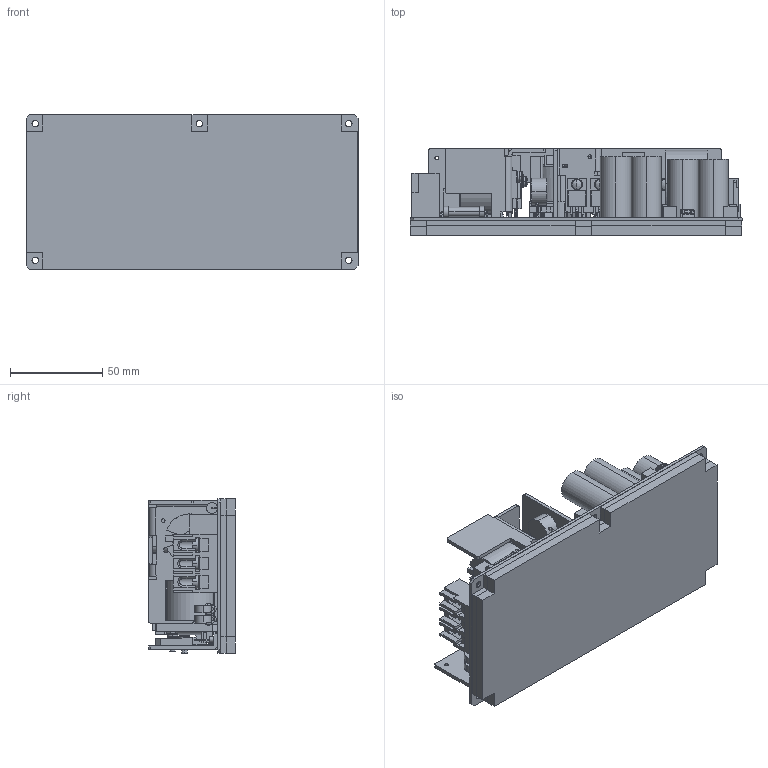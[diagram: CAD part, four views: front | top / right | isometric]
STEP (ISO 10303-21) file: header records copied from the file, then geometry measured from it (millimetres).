
FILE_DESCRIPTION (( 'STEP AP214' ), '1' );
FILE_NAME ('evs300w_outline.STEP', '2015-10-26T02:04:41', ( 'tljuser' ), ( 'Microsoft' ), 'SwSTEP 2.0', 'SolidWorks 2013', '' );
FILE_SCHEMA (( 'AUTOMOTIVE_DESIGN' ));
Length unit declared in the file: millimetre
Products named in the file (1): evs300w_outline
Bounding box: 180 x 47 x 84 mm (x, y, z)
Volume: 304332.7 mm3; surface area: 147962.8 mm2
Topology: 3 solids, 3 shells, 2815 faces, 8052 edges, 5289 vertices
Faces by surface type: plane 2234, cylinder 489, bspline 78, cone 14
Entity records: 109658 total; most frequent: CARTESIAN_POINT 18753, ORIENTED_EDGE 16072, DIRECTION 14485, EDGE_CURVE 8036, LINE 6713, VECTOR 6713, VERTEX_POINT 5289, AXIS2_PLACEMENT_3D 3886
